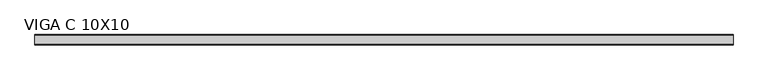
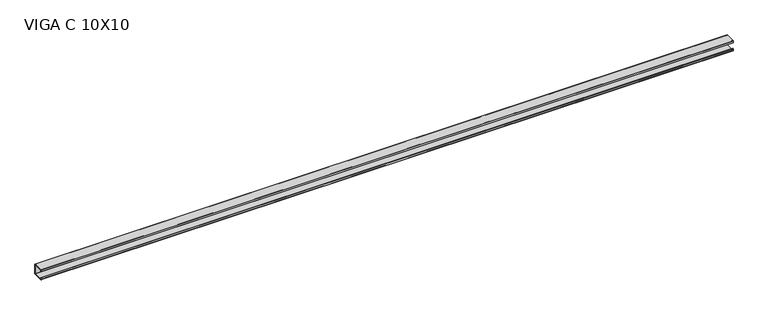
"""IFC4 building model written with IfcOpenShell, lengths in millimetres: beam geometry, VIGA PERFIL C AÇO : VIGA C 10X10."""

from ifc_helpers import new_model, si_unit, point, frame, frame_2d, origin, place, context, project, spatial, polyline, circle_curve, trimmed, segment, composite_curve, outline, extrude, source, transform, mapped, element, save


def viga_c_10x10_f8df9bf3(model_context):
    return source(origin(), model_context, "Body", "SweptSolid", [
        extrude(outline(polyline([(9.2, -50.0), (-90.8, -50.0), (-90.8, -30.0), (-88.9, -30.0), (-88.9, -48.1), (7.3, -48.1), (7.3, 48.1), (-88.9, 48.1), (-88.9, 30.0), (-90.8, 30.0), (-90.8, 50.0), (9.2, 50.0), (9.2, -50.0)])), frame((-3364.0, 0.0, 0.0), z_axis=(1.0, 0.0, 0.0), x_axis=(0.0, 1.0, 0.0)), (0.0, 0.0, 1.0), 6728.0),
        extrude(outline(composite_curve([segment(trimmed(circle_curve(frame_2d((5.4, -46.2)), 3.8), [point((9.2, -46.2))], [point((5.4, -50.0))], False, "CARTESIAN"), True, "CONTINUOUS"), segment(polyline([(5.4, -50.0), (-87.0, -50.0)]), True, "CONTINUOUS"), segment(trimmed(circle_curve(frame_2d((-87.0, -46.2)), 3.8), [point((-87.0, -50.0))], [point((-90.8, -46.2))], False, "CARTESIAN"), True, "CONTINUOUS"), segment(polyline([(-90.8, -46.2), (-90.8, -30.0), (-88.9, -30.0), (-88.9, -46.2)]), True, "CONTINUOUS"), segment(trimmed(circle_curve(frame_2d((-87.0, -46.2)), 1.9), [point((-88.9, -46.2))], [point((-87.0, -48.1))], True, "CARTESIAN"), True, "CONTINUOUS"), segment(polyline([(-87.0, -48.1), (5.4, -48.1)]), True, "CONTINUOUS"), segment(trimmed(circle_curve(frame_2d((5.4, -46.2)), 1.9), [point((5.4, -48.1))], [point((7.3, -46.2))], True, "CARTESIAN"), True, "CONTINUOUS"), segment(polyline([(7.3, -46.2), (7.3, 46.2)]), True, "CONTINUOUS"), segment(trimmed(circle_curve(frame_2d((5.4, 46.2)), 1.9), [point((7.3, 46.2))], [point((5.4, 48.1))], True, "CARTESIAN"), True, "CONTINUOUS"), segment(polyline([(5.4, 48.1), (-87.0, 48.1)]), True, "CONTINUOUS"), segment(trimmed(circle_curve(frame_2d((-87.0, 46.2)), 1.9), [point((-87.0, 48.1))], [point((-88.9, 46.2))], True, "CARTESIAN"), True, "CONTINUOUS"), segment(polyline([(-88.9, 46.2), (-88.9, 30.0), (-90.8, 30.0), (-90.8, 46.2)]), True, "CONTINUOUS"), segment(trimmed(circle_curve(frame_2d((-87.0, 46.2)), 3.8), [point((-90.8, 46.2))], [point((-87.0, 50.0))], False, "CARTESIAN"), True, "CONTINUOUS"), segment(polyline([(-87.0, 50.0), (5.4, 50.0)]), True, "CONTINUOUS"), segment(trimmed(circle_curve(frame_2d((5.4, 46.2)), 3.8), [point((5.4, 50.0))], [point((9.2, 46.2))], False, "CARTESIAN"), True, "CONTINUOUS"), segment(polyline([(9.2, 46.2), (9.2, -46.2)]), True, "CONTINUOUS")], self_intersect=False)), frame((-3364.0, 0.0, 0.0), z_axis=(1.0, 0.0, 0.0), x_axis=(0.0, 1.0, 0.0)), (0.0, 0.0, 1.0), 6728.0),
    ])


if __name__ == "__main__":
    model = new_model("IFC4")
    model_context = context("Model", 3, world=origin())
    ifc_project = project(units=[si_unit("LENGTHUNIT", "METRE", prefix="MILLI")], contexts=[model_context])
    site = spatial("IfcSite", under=ifc_project)
    building = spatial("IfcBuilding", under=site)
    placement = place(None, origin())
    viga_c_10x10_shape = viga_c_10x10_f8df9bf3(model_context)
    element("IfcBeam", 1, ObjectType="VIGA PERFIL C AÇO : VIGA C 10X10", at=placement, inside=building, context=model_context, shape_type="MappedRepresentation", body=[
        mapped(viga_c_10x10_shape, transform((0.0, 0.0, 0.0), x_axis=(1.0, 0.0, 0.0), y_axis=(0.0, 1.0, 0.0), z_axis=(0.0, 0.0, 1.0))),
    ])
    save(model, "model.ifc")
